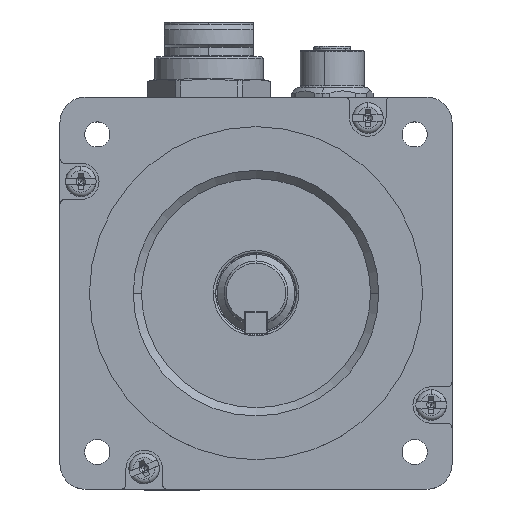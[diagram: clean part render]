
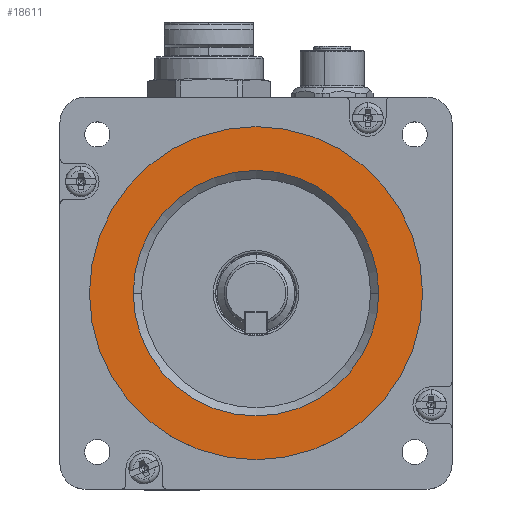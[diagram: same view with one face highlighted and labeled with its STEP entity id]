
A CAD part, top view. The second image highlights one B-rep face of the part: STEP entity #18611.
In plain terms, the highlighted planar face has unit normal (0, 0, 1).
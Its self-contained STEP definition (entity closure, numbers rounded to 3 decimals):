
#25 = DIRECTION ( 'NONE',  ( 0., 0., 1. ) ) ;
#506 = PLANE ( 'NONE',  #37487 ) ;
#2521 = ORIENTED_EDGE ( 'NONE', *, *, #72543, .T. ) ;
#2905 = ORIENTED_EDGE ( 'NONE', *, *, #68446, .T. ) ;
#5067 = DIRECTION ( 'NONE',  ( 0., 0., -1. ) ) ;
#10538 = AXIS2_PLACEMENT_3D ( 'NONE', #79397, #94139, #24636 ) ;
#11217 = AXIS2_PLACEMENT_3D ( 'NONE', #48284, #80138, #79141 ) ;
#15234 = EDGE_LOOP ( 'NONE', ( #2905, #86735 ) ) ;
#16510 = VERTEX_POINT ( 'NONE', #40036 ) ;
#16999 = CIRCLE ( 'NONE', #10538, 36.5 ) ;
#18433 = VERTEX_POINT ( 'NONE', #71645 ) ;
#18611 = ADVANCED_FACE ( 'NONE', ( #38614, #84689 ), #506, .T. ) ;
#18681 = VERTEX_POINT ( 'NONE', #99965 ) ;
#24636 = DIRECTION ( 'NONE',  ( 1., 0., 0. ) ) ;
#26694 = ORIENTED_EDGE ( 'NONE', *, *, #31211, .T. ) ;
#29456 = EDGE_LOOP ( 'NONE', ( #26694, #2521 ) ) ;
#30981 = DIRECTION ( 'NONE',  ( 1., 0., 0. ) ) ;
#31211 = EDGE_CURVE ( 'NONE', #43174, #18681, #42636, .T. ) ;
#36189 = AXIS2_PLACEMENT_3D ( 'NONE', #44700, #61925, #99920 ) ;
#36356 = EDGE_CURVE ( 'NONE', #18433, #16510, #98708, .T. ) ;
#37487 = AXIS2_PLACEMENT_3D ( 'NONE', #54839, #25, #30981 ) ;
#38614 = FACE_BOUND ( 'NONE', #15234, .T. ) ;
#40036 = CARTESIAN_POINT ( 'NONE',  ( 70.2, 43.354, 219.616 ) ) ;
#41058 = CIRCLE ( 'NONE', #42616, 26.9 ) ;
#42616 = AXIS2_PLACEMENT_3D ( 'NONE', #43185, #5067, #97911 ) ;
#42636 = CIRCLE ( 'NONE', #36189, 36.5 ) ;
#43174 = VERTEX_POINT ( 'NONE', #81558 ) ;
#43185 = CARTESIAN_POINT ( 'NONE',  ( 43.3, 43.354, 219.616 ) ) ;
#44700 = CARTESIAN_POINT ( 'NONE',  ( 43.3, 43.354, 219.616 ) ) ;
#48284 = CARTESIAN_POINT ( 'NONE',  ( 43.3, 43.354, 219.616 ) ) ;
#54839 = CARTESIAN_POINT ( 'NONE',  ( 5.85, 5.904, 219.616 ) ) ;
#61925 = DIRECTION ( 'NONE',  ( 0., 0., 1. ) ) ;
#68446 = EDGE_CURVE ( 'NONE', #16510, #18433, #41058, .T. ) ;
#71645 = CARTESIAN_POINT ( 'NONE',  ( 16.4, 43.354, 219.616 ) ) ;
#72543 = EDGE_CURVE ( 'NONE', #18681, #43174, #16999, .T. ) ;
#79141 = DIRECTION ( 'NONE',  ( 1., 0., 0. ) ) ;
#79397 = CARTESIAN_POINT ( 'NONE',  ( 43.3, 43.354, 219.616 ) ) ;
#80138 = DIRECTION ( 'NONE',  ( 0., 0., -1. ) ) ;
#81558 = CARTESIAN_POINT ( 'NONE',  ( 79.8, 43.354, 219.616 ) ) ;
#84689 = FACE_OUTER_BOUND ( 'NONE', #29456, .T. ) ;
#86735 = ORIENTED_EDGE ( 'NONE', *, *, #36356, .T. ) ;
#94139 = DIRECTION ( 'NONE',  ( 0., 0., 1. ) ) ;
#97911 = DIRECTION ( 'NONE',  ( 1., 0., 0. ) ) ;
#98708 = CIRCLE ( 'NONE', #11217, 26.9 ) ;
#99920 = DIRECTION ( 'NONE',  ( 1., 0., 0. ) ) ;
#99965 = CARTESIAN_POINT ( 'NONE',  ( 6.8, 43.354, 219.616 ) ) ;
